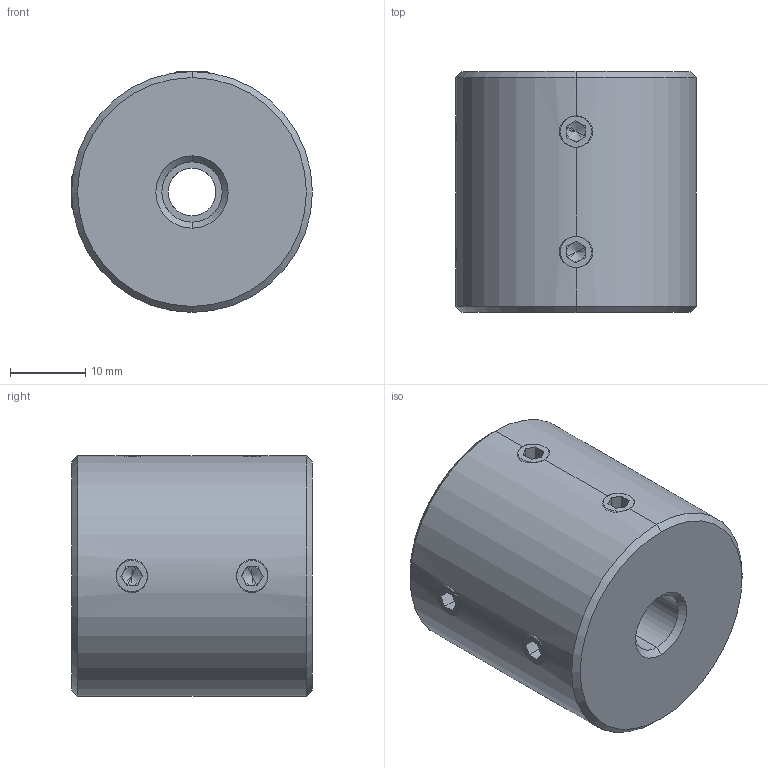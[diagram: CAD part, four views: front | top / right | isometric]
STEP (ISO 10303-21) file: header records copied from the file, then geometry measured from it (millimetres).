
FILE_DESCRIPTION (( 'STEP AP214' ), '1' );
FILE_NAME ('LL-D-D32L32-6.35-8½¨Ä£.STEP', '2022-07-22T11:21:13', ( '' ), ( '' ), 'SwSTEP 2.0', 'SolidWorks 2022', '' );
FILE_SCHEMA (( 'AUTOMOTIVE_DESIGN' ));
Length unit declared in the file: millimetre
Products named in the file (1): LL-D-D32L32-6.35-8膘耀
Bounding box: 32 x 32 x 32 mm (x, y, z)
Volume: 24043.5 mm3; surface area: 5715.7 mm2
Topology: 1 solids, 1 shells, 113 faces, 286 edges, 176 vertices
Faces by surface type: plane 59, cone 32, cylinder 22
Entity records: 3750 total; most frequent: CARTESIAN_POINT 1040, DIRECTION 558, ORIENTED_EDGE 556, EDGE_CURVE 278, AXIS2_PLACEMENT_3D 206, VERTEX_POINT 176, LINE 146, VECTOR 146
